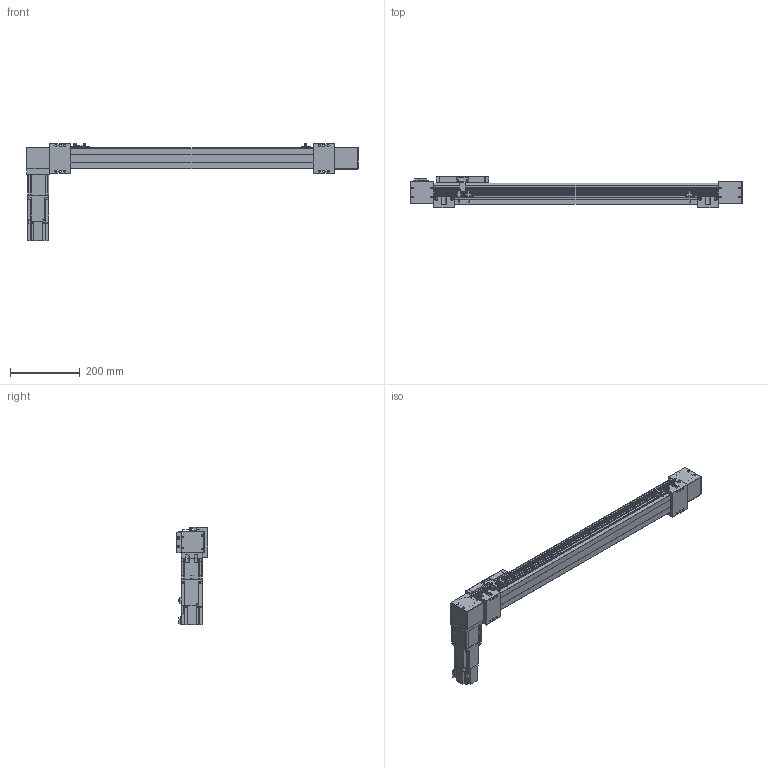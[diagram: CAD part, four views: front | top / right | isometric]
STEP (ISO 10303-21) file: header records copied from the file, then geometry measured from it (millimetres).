
FILE_DESCRIPTION(/* description */ ('STEP AP203'),/* implementation_level */ '2;1');
FILE_NAME(/* name */ 'SK60-P13-S650-BR-T40-C1-N(0)',/* time_stamp */ '2023-04-06T03:59:19+02:00',/* author */ ('License CC BY-ND 4.0'),/* organization */ ('CADENAS'),/* preprocessor_version */ 'ST-DEVELOPER v19.3',/* originating_system */ 'PARTsolutions',/* authorisation */ ' ');
FILE_SCHEMA (('CONFIG_CONTROL_DESIGN'));
Length unit declared in the file: millimetre
Products named in the file (11): SK60-P13-S650-BR-T40-C1-N(0); PSC140-sensor; SK60-S450_seat; SK60-S450-BL-C1_slider; SK60_body3; SK60_body6; SK60-BL_body2; T40-p1; SK60_body5; SK60_body4; SK60-S650-BR-C1_body
Assembly tree (17 placements, depth 2):
  SK60-P13-S650-BR-T40-C1-N(0)
    PSC140-sensor  x3
    SK60-S450_seat  x2
    SK60-S450-BL-C1_slider
    SK60_body3  x3
    SK60_body6  x2
    SK60-BL_body2  x2
    T40-p1
    SK60_body5
    SK60_body4
    SK60-S650-BR-C1_body
Bounding box: 950 x 90 x 279.1 mm (x, y, z)
Volume: 3846903.6 mm3; surface area: 551018.8 mm2
Topology: 17 solids, 21 shells, 834 faces, 2109 edges, 1394 vertices
Faces by surface type: plane 544, cylinder 266, cone 22, torus 2
Full cylindrical faces by diameter (mm): 2.8 x3, 3.3 x4, 4.2 x8, 4.5 x26, 4.6 x3, 4.917 x16, 5 x2, 5.478 x4, 5.5 x19, 6.5 x4, 8 x4, 8.5 x4, 9.988 x4, 10 x8, 13.556 x1, 14 x1, 14.586 x1, 19.692 x1, 38.432 x2, 43 x1, 44 x3, 47 x2, 50 x2
Entity records: 19371 total; most frequent: DIRECTION 3292, CARTESIAN_POINT 3289, ORIENTED_EDGE 3050, EDGE_CURVE 1525, AXIS2_PLACEMENT_3D 1100, LINE 1092, VECTOR 1092, VERTEX_POINT 1077
